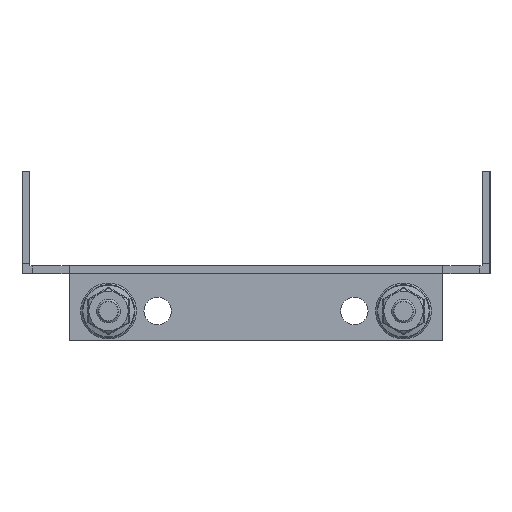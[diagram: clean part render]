
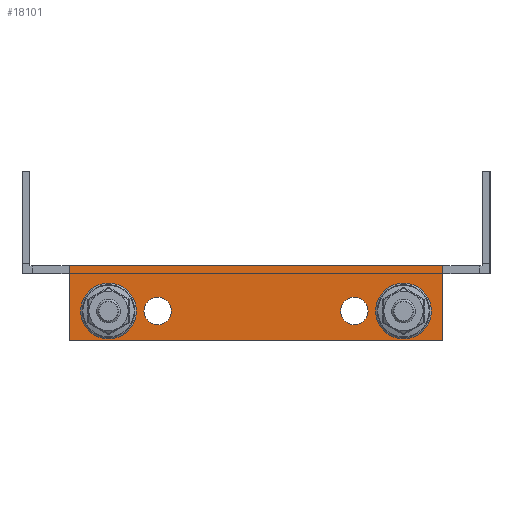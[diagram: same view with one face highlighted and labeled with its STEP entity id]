
A CAD part, left-side view. The second image highlights one B-rep face of the part: STEP entity #18101.
In plain terms, the highlighted planar face has unit normal (-1, 0, 0).
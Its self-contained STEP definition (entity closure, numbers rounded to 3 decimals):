
#3098 = VERTEX_POINT('',#3099);
#3099 = CARTESIAN_POINT('',(-450.,47.5,2.));
#3105 = EDGE_CURVE('',#3106,#3098,#3108,.T.);
#3106 = VERTEX_POINT('',#3107);
#3107 = CARTESIAN_POINT('',(-450.,-47.5,2.));
#3108 = LINE('',#3109,#3110);
#3109 = CARTESIAN_POINT('',(-450.,-57.5,2.));
#3110 = VECTOR('',#3111,1.);
#3111 = DIRECTION('',(-0.,1.,-0.));
#17980 = VERTEX_POINT('',#17981);
#17981 = CARTESIAN_POINT('',(-450.,-47.5,-0.6));
#17996 = EDGE_CURVE('',#17980,#3106,#17997,.T.);
#17997 = LINE('',#17998,#17999);
#17998 = CARTESIAN_POINT('',(-450.,-47.5,-0.6));
#17999 = VECTOR('',#18000,1.);
#18000 = DIRECTION('',(0.,-0.,1.));
#18020 = VERTEX_POINT('',#18021);
#18021 = CARTESIAN_POINT('',(-450.,47.5,-0.6));
#18027 = EDGE_CURVE('',#18020,#3098,#18028,.T.);
#18028 = LINE('',#18029,#18030);
#18029 = CARTESIAN_POINT('',(-450.,47.5,0.));
#18030 = VECTOR('',#18031,1.);
#18031 = DIRECTION('',(0.,0.,1.));
#18043 = EDGE_CURVE('',#18044,#18020,#18046,.T.);
#18044 = VERTEX_POINT('',#18045);
#18045 = CARTESIAN_POINT('',(-450.,47.5,-17.));
#18046 = LINE('',#18047,#18048);
#18047 = CARTESIAN_POINT('',(-450.,47.5,0.));
#18048 = VECTOR('',#18049,1.);
#18049 = DIRECTION('',(0.,-0.,1.));
#18083 = EDGE_CURVE('',#17980,#18084,#18086,.T.);
#18084 = VERTEX_POINT('',#18085);
#18085 = CARTESIAN_POINT('',(-450.,-47.5,-17.));
#18086 = LINE('',#18087,#18088);
#18087 = CARTESIAN_POINT('',(-450.,-47.5,-17.));
#18088 = VECTOR('',#18089,1.);
#18089 = DIRECTION('',(0.,-0.,-1.));
#18101 = ADVANCED_FACE('',(#18102,#18122,#18142,#18153,#18164),#18177,
  .T.);
#18102 = FACE_BOUND('',#18103,.T.);
#18103 = EDGE_LOOP('',(#18104,#18115));
#18104 = ORIENTED_EDGE('',*,*,#18105,.F.);
#18105 = EDGE_CURVE('',#18106,#18108,#18110,.T.);
#18106 = VERTEX_POINT('',#18107);
#18107 = CARTESIAN_POINT('',(-450.,-37.5,-13.));
#18108 = VERTEX_POINT('',#18109);
#18109 = CARTESIAN_POINT('',(-450.,-37.5,-6.));
#18110 = CIRCLE('',#18111,3.5);
#18111 = AXIS2_PLACEMENT_3D('',#18112,#18113,#18114);
#18112 = CARTESIAN_POINT('',(-450.,-37.5,-9.5));
#18113 = DIRECTION('',(-1.,0.,0.));
#18114 = DIRECTION('',(0.,0.,-1.));
#18115 = ORIENTED_EDGE('',*,*,#18116,.F.);
#18116 = EDGE_CURVE('',#18108,#18106,#18117,.T.);
#18117 = CIRCLE('',#18118,3.5);
#18118 = AXIS2_PLACEMENT_3D('',#18119,#18120,#18121);
#18119 = CARTESIAN_POINT('',(-450.,-37.5,-9.5));
#18120 = DIRECTION('',(-1.,0.,0.));
#18121 = DIRECTION('',(0.,0.,-1.));
#18122 = FACE_BOUND('',#18123,.T.);
#18123 = EDGE_LOOP('',(#18124,#18135));
#18124 = ORIENTED_EDGE('',*,*,#18125,.F.);
#18125 = EDGE_CURVE('',#18126,#18128,#18130,.T.);
#18126 = VERTEX_POINT('',#18127);
#18127 = CARTESIAN_POINT('',(-450.,-25.,-13.));
#18128 = VERTEX_POINT('',#18129);
#18129 = CARTESIAN_POINT('',(-450.,-25.,-6.));
#18130 = CIRCLE('',#18131,3.5);
#18131 = AXIS2_PLACEMENT_3D('',#18132,#18133,#18134);
#18132 = CARTESIAN_POINT('',(-450.,-25.,-9.5));
#18133 = DIRECTION('',(-1.,0.,0.));
#18134 = DIRECTION('',(0.,0.,-1.));
#18135 = ORIENTED_EDGE('',*,*,#18136,.F.);
#18136 = EDGE_CURVE('',#18128,#18126,#18137,.T.);
#18137 = CIRCLE('',#18138,3.5);
#18138 = AXIS2_PLACEMENT_3D('',#18139,#18140,#18141);
#18139 = CARTESIAN_POINT('',(-450.,-25.,-9.5));
#18140 = DIRECTION('',(-1.,0.,0.));
#18141 = DIRECTION('',(0.,0.,-1.));
#18142 = FACE_BOUND('',#18143,.T.);
#18143 = EDGE_LOOP('',(#18144));
#18144 = ORIENTED_EDGE('',*,*,#18145,.F.);
#18145 = EDGE_CURVE('',#18146,#18146,#18148,.T.);
#18146 = VERTEX_POINT('',#18147);
#18147 = CARTESIAN_POINT('',(-450.,25.,-6.));
#18148 = CIRCLE('',#18149,3.5);
#18149 = AXIS2_PLACEMENT_3D('',#18150,#18151,#18152);
#18150 = CARTESIAN_POINT('',(-450.,25.,-9.5));
#18151 = DIRECTION('',(-1.,0.,0.));
#18152 = DIRECTION('',(0.,0.,1.));
#18153 = FACE_BOUND('',#18154,.T.);
#18154 = EDGE_LOOP('',(#18155));
#18155 = ORIENTED_EDGE('',*,*,#18156,.F.);
#18156 = EDGE_CURVE('',#18157,#18157,#18159,.T.);
#18157 = VERTEX_POINT('',#18158);
#18158 = CARTESIAN_POINT('',(-450.,37.5,-6.));
#18159 = CIRCLE('',#18160,3.5);
#18160 = AXIS2_PLACEMENT_3D('',#18161,#18162,#18163);
#18161 = CARTESIAN_POINT('',(-450.,37.5,-9.5));
#18162 = DIRECTION('',(-1.,0.,0.));
#18163 = DIRECTION('',(0.,0.,1.));
#18164 = FACE_BOUND('',#18165,.T.);
#18165 = EDGE_LOOP('',(#18166,#18167,#18168,#18169,#18170,#18171));
#18166 = ORIENTED_EDGE('',*,*,#18083,.F.);
#18167 = ORIENTED_EDGE('',*,*,#17996,.T.);
#18168 = ORIENTED_EDGE('',*,*,#3105,.T.);
#18169 = ORIENTED_EDGE('',*,*,#18027,.F.);
#18170 = ORIENTED_EDGE('',*,*,#18043,.F.);
#18171 = ORIENTED_EDGE('',*,*,#18172,.F.);
#18172 = EDGE_CURVE('',#18084,#18044,#18173,.T.);
#18173 = LINE('',#18174,#18175);
#18174 = CARTESIAN_POINT('',(-450.,47.5,-17.));
#18175 = VECTOR('',#18176,1.);
#18176 = DIRECTION('',(-0.,1.,-0.));
#18177 = PLANE('',#18178);
#18178 = AXIS2_PLACEMENT_3D('',#18179,#18180,#18181);
#18179 = CARTESIAN_POINT('',(-450.,47.5,0.));
#18180 = DIRECTION('',(-1.,0.,0.));
#18181 = DIRECTION('',(0.,0.,1.));
